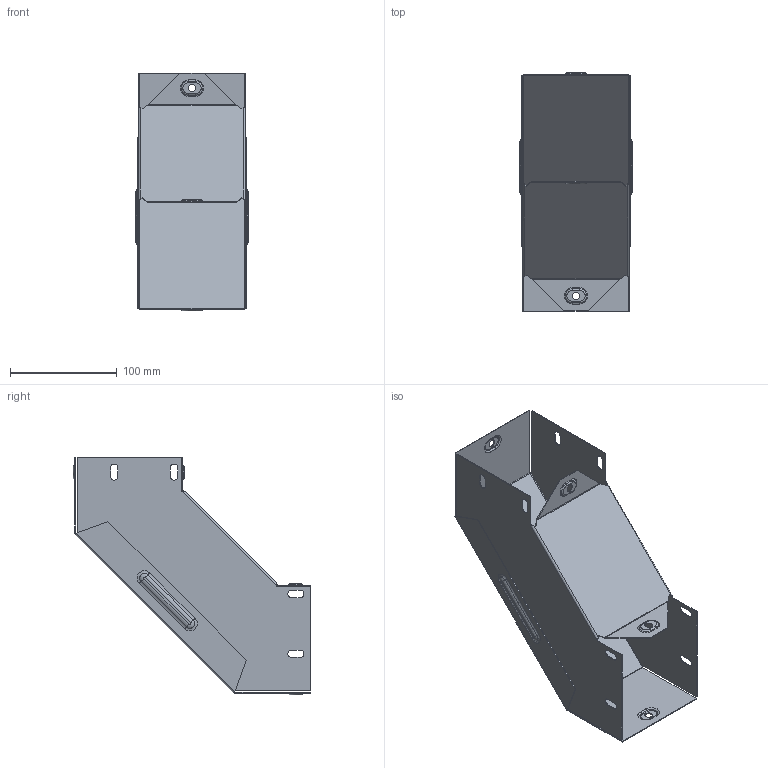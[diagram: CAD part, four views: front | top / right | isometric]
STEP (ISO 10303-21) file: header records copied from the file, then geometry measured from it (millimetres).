
FILE_DESCRIPTION (( 'STEP AP214' ), '1' );
FILE_NAME ('vo90100100_捘.STEP', '2019-06-10T09:07:29', ( '砐錪賧瘔蠈錪 Windows' ), ( '' ), 'SwSTEP 2.0', 'SolidWorks 2018', '' );
FILE_SCHEMA (( 'AUTOMOTIVE_DESIGN' ));
Length unit declared in the file: millimetre
Products named in the file (1): vo90100100_捘
Bounding box: 105.6 x 222.31 x 222.31 mm (x, y, z)
Volume: 91667 mm3; surface area: 231457.1 mm2
Topology: 2 solids, 2 shells, 280 faces, 660 edges, 400 vertices
Faces by surface type: cylinder 108, plane 100, torus 64, bspline 8
Entity records: 8251 total; most frequent: CARTESIAN_POINT 1589, DIRECTION 1470, ORIENTED_EDGE 1320, EDGE_CURVE 660, AXIS2_PLACEMENT_3D 569, VERTEX_POINT 400, LINE 332, VECTOR 332
